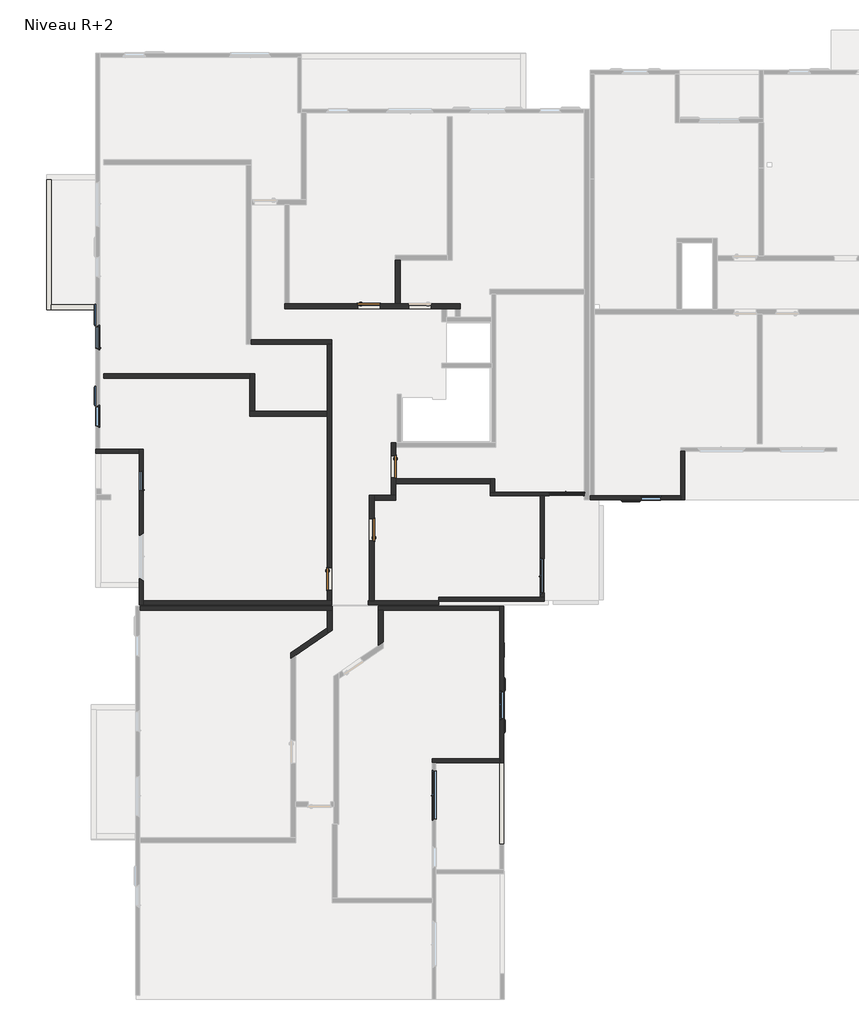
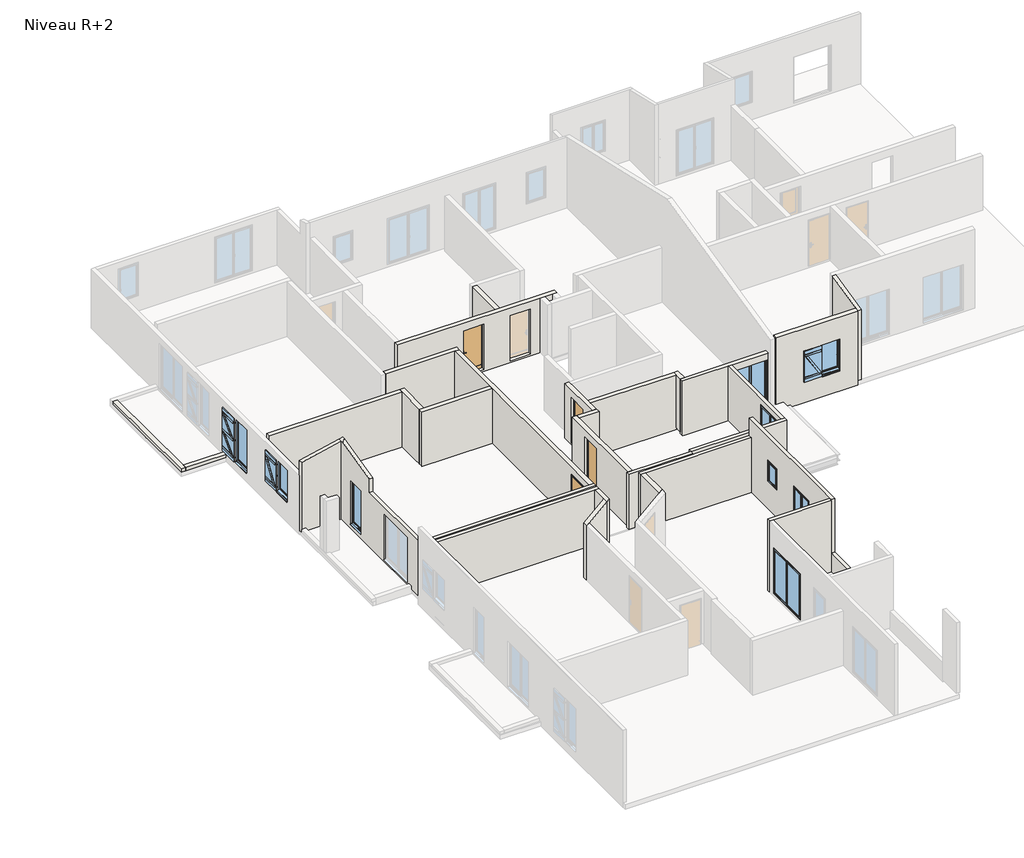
# One storey, part 2 of 7: 31 walls, 9 windows, 4 doors.
"""IFC4 building model written with IfcOpenShell, lengths in millimetres."""

from ifc_helpers import new_model, si_unit, frame, origin, place, context, project, spatial, polyline, outline, extrude, faceted_brep, transform, mapped, element, save
from components import door_6208809c, door_d4e09bec, window_6b6e24a2, window_e9bb7084, window_0_80m_x_2_05m_30132c93, window_0_90m_x_2_05m_de598733, window_1_vantail_droit_98c18ad5, window_1_40m_x_2_15m_17989232, window_2_00m_x_2_15m_5decbdad

model = new_model("IFC4")

# Units and contexts
model_context = context("Model", 3, world=origin())
ifc_project = project(units=[si_unit("LENGTHUNIT", "METRE", prefix="MILLI")], contexts=[model_context])

# Site, building, storey
site = spatial("IfcSite", under=ifc_project)
building = spatial("IfcBuilding", under=site)
storey = spatial("IfcBuildingStorey", under=building, Name="Niveau R+2", Elevation=6120.0)

# Doors
placement = place(None, origin())
door_shape = door_6208809c(model_context)
element("IfcDoor", 1, ObjectType="Entrée (avec angle d'ouverture) : PP Lisse (0.90 m x 2.15 m)", at=placement, inside=storey, context=model_context, shape_type="MappedRepresentation", body=[
    mapped(door_shape, transform((13145.0967812, 11175.465256, 6120.0), x_axis=(0.0, -1.0, 0.0), y_axis=(1.0, 0.0, 0.0), z_axis=(0.0, 0.0, 1.0))),
])
element("IfcDoor", 2, ObjectType="Entrée (avec angle d'ouverture) : PP Lisse (0.90 m x 2.15 m)", at=placement, inside=storey, context=model_context, shape_type="MappedRepresentation", body=[
    mapped(door_shape, transform((14889.7714977, 13219.661769, 6120.0), x_axis=(0.0, 1.0, 0.0), y_axis=(-1.0, 0.0, 0.0), z_axis=(0.0, 0.0, 1.0))),
])
door_2_shape = door_d4e09bec(model_context)
element("IfcDoor", 3, ObjectType="Entrée (avec angle d'ouverture) : PP Lisse (0.90 m x 2.15 m)", at=placement, inside=storey, context=model_context, shape_type="MappedRepresentation", body=[
    mapped(door_2_shape, transform((14775.0745996, 22408.2793913, 6120.0), x_axis=(1.0, 0.0, 0.0), y_axis=(0.0, 1.0, 0.0), z_axis=(0.0, 0.0, 1.0))),
])
element("IfcDoor", 4, ObjectType="Entrée (avec angle d'ouverture) : PP Lisse (0.90 m x 2.15 m)", at=placement, inside=storey, context=model_context, shape_type="MappedRepresentation", body=[
    mapped(door_2_shape, transform((15775.9659642, 15787.9594141, 6120.0), x_axis=(0.0, -1.0, 0.0), y_axis=(1.0, 0.0, 0.0), z_axis=(0.0, 0.0, 1.0))),
])

# Walls
element("IfcWall", 5, ObjectType="Ext. Voile BA 16 + 2 + 2", at=placement, inside=storey, context=model_context, shape_type="Brep", body=[
    faceted_brep([(20315.920738, 265.0198488, 6030.0), (20315.920738, 3635.465256, 6030.0), (20315.920738, 3635.465256, 6930.0), (20315.920738, 265.0198488, 6930.0), (20315.920738, 265.0198488, 6120.0), (20155.920738, 265.0198488, 6030.0), (20155.920738, 265.0198488, 6120.0), (20155.920738, 265.0198488, 6930.0), (20155.920738, 3635.465256, 6930.0), (20155.920738, 3635.465256, 6030.0)], [[[0, 1, 2, 3, 4]], [[5, 6, 7, 8, 9]], [[1, 0, 5, 9]], [[2, 1, 9, 8]], [[3, 2, 8, 7]], [[0, 4, 3, 7, 6, 5]]]),
])
element("IfcWall", 6, ObjectType="Ext. Voile BA 16 + Isolant 120", at=placement, inside=storey, context=model_context, shape_type="Brep", body=[
    faceted_brep([(27586.9796965, 16431.4013077, 6030.0), (27586.9796965, 14437.8380864, 6030.0), (27586.9796965, 14437.8380864, 9366.3623631), (27586.9796965, 14597.8380864, 9403.3012737), (27586.9796965, 16431.4013077, 9826.6126979), (27746.9796965, 16431.4013077, 6030.0), (27746.9796965, 16431.4013077, 9826.6126979), (27746.9796965, 14437.8380864, 9366.3623631), (27746.9796965, 14437.8380864, 6030.0)], [[[0, 1, 2, 3, 4]], [[5, 6, 7, 8]], [[1, 0, 5, 8]], [[0, 4, 6, 5]], [[2, 1, 8, 7]], [[4, 3, 2, 7, 6]]]),
])
element("IfcWall", 7, ObjectType="Ext. Voile BA 16 + Isolant 120", at=placement, inside=storey, context=model_context, shape_type="Brep", body=[
    faceted_brep([(27586.9796965, 14597.8380864, 5830.0), (23871.9389593, 14597.8380864, 5830.0), (23871.9389593, 14597.8380864, 6030.0), (23871.9389593, 14597.8380864, 8630.0), (23871.9389593, 14597.8380864, 9403.3012737), (27586.9796965, 14597.8380864, 9403.3012737), (25966.9796965, 14597.8380864, 6855.0), (26766.9796965, 14597.8380864, 6855.0), (26816.9796965, 14597.8380864, 6855.0), (26816.9796965, 14597.8380864, 8355.0), (25916.9796965, 14597.8380864, 8355.0), (25916.9796965, 14597.8380864, 6855.0), (23871.9389593, 14437.8380864, 5830.0), (27586.9796965, 14437.8380864, 5830.0), (27586.9796965, 14437.8380864, 6030.0), (27586.9796965, 14437.8380864, 9366.3623631), (23872.0202028, 14437.8380864, 9366.3623631), (26766.9796965, 14437.8380864, 8305.0), (26766.9796965, 14437.8380864, 6775.0), (25966.9796965, 14437.8380864, 6775.0), (25966.9796965, 14437.8380864, 8305.0), (26766.9796965, 14517.8380864, 6855.0), (26766.9796965, 14517.8380864, 6775.0), (26766.9796965, 14497.8380864, 8305.0), (26766.9796965, 14497.8380864, 6855.0), (25966.9796965, 14517.8380864, 6775.0), (25966.9796965, 14517.8380864, 6855.0), (25966.9796965, 14497.8380864, 6855.0), (25966.9796965, 14497.8380864, 8305.0), (26776.9796965, 14497.8380864, 6855.0), (26776.9796965, 14547.8380864, 6855.0), (26816.9796965, 14547.8380864, 6855.0), (25916.9796965, 14547.8380864, 6855.0), (25956.9796965, 14547.8380864, 6855.0), (25956.9796965, 14497.8380864, 6855.0), (26816.9796965, 14547.8380864, 8355.0), (25916.9796965, 14547.8380864, 8355.0), (26776.9796965, 14547.8380864, 8315.0), (25956.9796965, 14547.8380864, 8315.0), (26776.9796965, 14497.8380864, 8315.0), (25956.9796965, 14497.8380864, 8315.0)], [[[0, 1, 2, 3, 4, 5], [6, 7, 8, 9, 10, 11]], [[12, 13, 14, 15, 16], [17, 18, 19, 20]], [[1, 0, 13, 12]], [[0, 5, 15, 14, 13]], [[21, 22, 18, 17, 23, 24]], [[25, 26, 27, 28, 20, 19]], [[21, 24, 29, 30, 31, 8, 7, 6, 11, 32, 33, 34, 27, 26]], [[28, 23, 17, 20]], [[22, 25, 19, 18]], [[22, 21, 26, 25]], [[8, 31, 35, 9]], [[33, 32, 36, 35, 31, 30, 37, 38]], [[30, 29, 39, 37]], [[24, 23, 28, 27, 34, 40, 39, 29]], [[9, 35, 36, 10]], [[38, 37, 39, 40]], [[32, 11, 10, 36]], [[34, 33, 38, 40]], [[1, 12, 16, 4, 3, 2]], [[5, 4, 16, 15]]]),
])
element("IfcWall", 8, ObjectType="Ext. Voile BA 16 + Isolant 120", at=placement, inside=storey, context=model_context, shape_type="Brep", body=[
    faceted_brep([(5489.893812, 10125.465256, 6030.0), (5489.893812, 10285.465256, 6030.0), (5489.893812, 16515.4652425, 6030.0), (5489.893812, 16515.4652425, 9817.2451624), (5489.893812, 16393.8246869, 9817.2451624), (5489.893812, 14140.8367198, 9297.1019058), (5489.893812, 14140.8367198, 8650.0), (5489.893812, 10285.465256, 8650.0), (5489.893812, 10125.465256, 8650.0), (5489.893812, 15665.4652425, 6255.0), (5489.893812, 14765.4652425, 6255.0), (5489.893812, 14765.4652425, 8355.0), (5489.893812, 15665.4652425, 8355.0), (5489.893812, 13035.465256, 6155.0), (5489.893812, 11135.465256, 6155.0), (5489.893812, 11135.465256, 8355.0), (5489.893812, 13035.465256, 8355.0), (5329.893812, 10125.465256, 6030.0), (5329.893812, 10125.465256, 8650.0), (5329.893812, 14140.8367198, 8650.0), (5329.893812, 14140.8367198, 9297.1019058), (5329.893812, 16233.8246869, 9780.3062518), (5329.893812, 16355.4652425, 9780.3062518), (5329.893812, 16515.4652425, 9780.3062518), (5329.893812, 16515.4652425, 6030.0), (5329.893812, 16355.4652425, 6030.0), (5329.893812, 11035.4652425, 6030.0), (5329.893812, 10855.4652425, 6030.0), (5329.893812, 14815.4652425, 8305.0), (5329.893812, 14815.4652425, 6246.5916612), (5329.893812, 15615.4652425, 6246.5916612), (5329.893812, 15615.4652425, 8305.0), (5329.893812, 11185.465256, 8305.0), (5329.893812, 11185.465256, 6146.5916612), (5329.893812, 12985.465256, 6146.5916612), (5329.893812, 12985.465256, 8305.0), (5409.893812, 14815.4652425, 6255.0), (5389.893812, 14815.4652425, 8305.0), (5389.893812, 14815.4652425, 6255.0), (5409.893812, 15615.4652425, 6255.0), (5389.893812, 15615.4652425, 6255.0), (5389.893812, 15615.4652425, 8305.0), (5389.893812, 14805.4652425, 6255.0), (5439.893812, 14805.4652425, 6255.0), (5439.893812, 14765.4652425, 6255.0), (5439.893812, 15665.4652425, 6255.0), (5439.893812, 15625.4652425, 6255.0), (5389.893812, 15625.4652425, 6255.0), (5439.893812, 14765.4652425, 8355.0), (5439.893812, 14805.4652425, 8315.0), (5439.893812, 15625.4652425, 8315.0), (5439.893812, 15665.4652425, 8355.0), (5389.893812, 14805.4652425, 8315.0), (5389.893812, 15625.4652425, 8315.0), (5409.893812, 11185.465256, 6155.0), (5389.893812, 11185.465256, 8305.0), (5389.893812, 11185.465256, 6155.0), (5409.893812, 12985.465256, 6155.0), (5389.893812, 12985.465256, 6155.0), (5389.893812, 12985.465256, 8305.0), (5389.893812, 11175.465256, 6155.0), (5439.893812, 11175.465256, 6155.0), (5439.893812, 11135.465256, 6155.0), (5439.893812, 13035.465256, 6155.0), (5439.893812, 12995.465256, 6155.0), (5389.893812, 12995.465256, 6155.0), (5439.893812, 11135.465256, 8355.0), (5439.893812, 11175.465256, 8315.0), (5439.893812, 12995.465256, 8315.0), (5439.893812, 13035.465256, 8355.0), (5389.893812, 11175.465256, 8315.0), (5389.893812, 12995.465256, 8315.0)], [[[0, 1, 2, 3, 4, 5, 6, 7, 8], [9, 10, 11, 12], [13, 14, 15, 16]], [[17, 18, 19, 20, 21, 22, 23, 24, 25, 26, 27], [28, 29, 30, 31], [32, 33, 34, 35]], [[2, 1, 0, 17, 27, 26, 25, 24]], [[3, 2, 24, 23]], [[0, 8, 18, 17]], [[36, 29, 28, 37, 38]], [[30, 39, 40, 41, 31]], [[36, 39, 30, 29]], [[28, 31, 41, 37]], [[39, 36, 38, 42, 43, 44, 10, 9, 45, 46, 47, 40]], [[10, 44, 48, 11]], [[44, 43, 49, 50, 46, 45, 51, 48]], [[43, 42, 52, 49]], [[42, 38, 37, 41, 40, 47, 53, 52]], [[11, 48, 51, 12]], [[50, 49, 52, 53]], [[51, 45, 9, 12]], [[46, 50, 53, 47]], [[54, 33, 32, 55, 56]], [[34, 57, 58, 59, 35]], [[54, 57, 34, 33]], [[32, 35, 59, 55]], [[57, 54, 56, 60, 61, 62, 14, 13, 63, 64, 65, 58]], [[14, 62, 66, 15]], [[62, 61, 67, 68, 64, 63, 69, 66]], [[61, 60, 70, 67]], [[60, 56, 55, 59, 58, 65, 71, 70]], [[15, 66, 69, 16]], [[68, 67, 70, 71]], [[69, 63, 13, 16]], [[64, 68, 71, 65]], [[8, 7, 6, 19, 18]], [[19, 6, 5, 20]], [[5, 4, 21, 20]], [[4, 3, 23, 22, 21]]]),
])
element("IfcWall", 9, ObjectType="Ext. Voile BA 16 + Isolant 120", at=placement, inside=storey, context=model_context, shape_type="Brep", body=[
    faceted_brep([(5329.893812, 16515.4652425, 6030.0), (3536.9058449, 16515.4652425, 6030.0), (3536.9058449, 16515.4652425, 8650.0), (3536.9058449, 16515.4652425, 9366.3623631), (5329.893812, 16515.4652425, 9780.3062518), (5329.893812, 16355.4652425, 6030.0), (5329.893812, 16355.4652425, 9780.3062518), (3536.9058449, 16355.4652425, 9366.3623631), (3536.9058449, 16355.4652425, 6180.0), (3536.9058449, 16355.4652425, 6030.0), (3736.9058449, 16355.4652425, 6030.0)], [[[0, 1, 2, 3, 4]], [[5, 6, 7, 8, 9, 10]], [[1, 0, 5, 10, 9]], [[0, 4, 6, 5]], [[1, 9, 8, 7, 3, 2]], [[4, 3, 7, 6]]]),
])
element("IfcWall", 10, ObjectType="Ext. Voile BA 16 + Isolant 120", at=placement, inside=storey, context=model_context, shape_type="Brep", body=[
    faceted_brep([(20155.920738, 10065.4658562, 9490.0), (20155.920738, 10065.4658562, 8850.0), (20155.920738, 10065.4658562, 8650.0), (20155.920738, 10065.4658562, 6030.0), (20155.920738, 10065.4658562, 5830.0), (20155.920738, 3635.465256, 5830.0), (20155.920738, 3635.465256, 6030.0), (20155.920738, 3635.465256, 9450.0), (20155.920738, 3635.465256, 9490.0), (20155.920738, 5395.465256, 6855.0), (20155.920738, 6595.465256, 6855.0), (20155.920738, 6595.465256, 8355.0), (20155.920738, 5395.465256, 8355.0), (20155.920738, 7915.4658562, 7355.0), (20155.920738, 8615.4658562, 7355.0), (20155.920738, 8615.4658562, 8355.0), (20155.920738, 7915.4658562, 8355.0), (20315.920738, 10065.4658562, 5830.0), (20315.920738, 10065.4658562, 9490.0), (20315.920738, 3635.465256, 9490.0), (20315.920738, 3635.465256, 5830.0), (20315.920738, 6545.465256, 8305.0), (20315.920738, 6545.465256, 6775.0), (20315.920738, 5445.465256, 6775.0), (20315.920738, 5445.465256, 8305.0), (20315.920738, 8565.4658562, 8305.0), (20315.920738, 8565.4658562, 7331.5916612), (20315.920738, 7965.4658562, 7331.5916612), (20315.920738, 7965.4658562, 8305.0), (20235.920738, 6545.465256, 6855.0), (20235.920738, 6545.465256, 6775.0), (20255.920738, 6545.465256, 8305.0), (20255.920738, 6545.465256, 6855.0), (20235.920738, 5445.465256, 6775.0), (20235.920738, 5445.465256, 6855.0), (20255.920738, 5445.465256, 6855.0), (20255.920738, 5445.465256, 8305.0), (20255.920738, 6555.465256, 6855.0), (20205.920738, 6555.465256, 6855.0), (20205.920738, 6595.465256, 6855.0), (20205.920738, 5395.465256, 6855.0), (20205.920738, 5435.465256, 6855.0), (20255.920738, 5435.465256, 6855.0), (20205.920738, 6595.465256, 8355.0), (20205.920738, 6555.465256, 8315.0), (20205.920738, 5435.465256, 8315.0), (20205.920738, 5395.465256, 8355.0), (20255.920738, 6555.465256, 8315.0), (20255.920738, 5435.465256, 8315.0), (20235.920738, 8565.4658562, 7355.0), (20235.920738, 8565.4658562, 7340.0), (20255.920738, 8565.4658562, 8305.0), (20255.920738, 8565.4658562, 7355.0), (20235.920738, 7965.4658562, 7340.0), (20235.920738, 7965.4658562, 7355.0), (20255.920738, 7965.4658562, 7355.0), (20255.920738, 7965.4658562, 8305.0), (20255.920738, 8575.4658562, 7355.0), (20205.920738, 8575.4658562, 7355.0), (20205.920738, 8615.4658562, 7355.0), (20205.920738, 7915.4658562, 7355.0), (20205.920738, 7955.4658562, 7355.0), (20255.920738, 7955.4658562, 7355.0), (20205.920738, 8615.4658562, 8355.0), (20205.920738, 8575.4658562, 8315.0), (20205.920738, 7955.4658562, 8315.0), (20205.920738, 7915.4658562, 8355.0), (20255.920738, 8575.4658562, 8315.0), (20255.920738, 7955.4658562, 8315.0)], [[[0, 1, 2, 3, 4, 5, 6, 7, 8], [9, 10, 11, 12], [13, 14, 15, 16]], [[17, 18, 19, 20], [21, 22, 23, 24], [25, 26, 27, 28]], [[5, 4, 17, 20]], [[0, 8, 19, 18]], [[8, 7, 6, 5, 20, 19]], [[29, 30, 22, 21, 31, 32]], [[33, 34, 35, 36, 24, 23]], [[30, 33, 23, 22]], [[30, 29, 34, 33]], [[21, 24, 36, 31]], [[34, 29, 32, 37, 38, 39, 10, 9, 40, 41, 42, 35]], [[10, 39, 43, 11]], [[39, 38, 44, 45, 41, 40, 46, 43]], [[38, 37, 47, 44]], [[37, 32, 31, 36, 35, 42, 48, 47]], [[11, 43, 46, 12]], [[45, 44, 47, 48]], [[46, 40, 9, 12]], [[41, 45, 48, 42]], [[49, 50, 26, 25, 51, 52]], [[53, 54, 55, 56, 28, 27]], [[50, 53, 27, 26]], [[50, 49, 54, 53]], [[25, 28, 56, 51]], [[54, 49, 52, 57, 58, 59, 14, 13, 60, 61, 62, 55]], [[14, 59, 63, 15]], [[59, 58, 64, 65, 61, 60, 66, 63]], [[58, 57, 67, 64]], [[57, 52, 51, 56, 55, 62, 68, 67]], [[15, 63, 66, 16]], [[65, 64, 67, 68]], [[66, 60, 13, 16]], [[61, 65, 68, 62]], [[0, 18, 17, 4, 3, 2, 1]]]),
])
element("IfcWall", 11, ObjectType="Ext. Voile BA 16 + Isolant 120", at=placement, inside=storey, context=model_context, shape_type="Brep", body=[
    faceted_brep([(20155.920738, 3795.465256, 6030.0), (17362.934101, 3795.465256, 6030.0), (17362.934101, 3795.465256, 9450.0), (20155.920738, 3795.465256, 9450.0), (20155.920738, 3635.465256, 6030.0), (20155.920738, 3635.465256, 9450.0), (17522.934101, 3635.465256, 9450.0), (17362.934101, 3635.465256, 9450.0), (17362.934101, 3635.465256, 6030.0), (17522.934101, 3635.465256, 6030.0)], [[[0, 1, 2, 3]], [[4, 5, 6, 7, 8, 9]], [[1, 0, 4, 9, 8]], [[3, 2, 7, 6, 5]], [[0, 3, 5, 4]], [[2, 1, 8, 7]]]),
])
element("IfcWall", 12, ObjectType="Ext. Voile BA 16 + Isolant 120", at=placement, inside=storey, context=model_context, shape_type="Brep", body=[
    faceted_brep([(23619.3795366, 14760.8367198, 6030.0), (19749.8723761, 14760.8367198, 6030.0), (19749.8723761, 14760.8367198, 6120.0), (19749.8723761, 14760.8367198, 8650.0), (19949.8723761, 14760.8367198, 8650.0), (23619.3795366, 14760.8367198, 8650.0), (23619.3795366, 14760.8367198, 8355.0), (22135.8013446, 14760.8367198, 8355.0), (22135.8013446, 14760.8367198, 6155.0), (22185.8013446, 14760.8367198, 6155.0), (23585.8013446, 14760.8367198, 6155.0), (23619.3795366, 14760.8367198, 6155.0), (19749.8723761, 14600.8367198, 6030.0), (21812.2231526, 14600.8367198, 6030.0), (21972.2231526, 14600.8367198, 6030.0), (23619.3795366, 14600.8367198, 6030.0), (23619.3795366, 14600.8367198, 8650.0), (21972.2231526, 14600.8367198, 8650.0), (21812.2231526, 14600.8367198, 8650.0), (19749.8723761, 14600.8367198, 8650.0), (23585.8013446, 14600.8367198, 8305.0), (23585.8013446, 14600.8367198, 6146.5916612), (22185.8013446, 14600.8367198, 6146.5916612), (22185.8013446, 14600.8367198, 8305.0), (23619.3795366, 14710.8367198, 6155.0), (23619.3795366, 14710.8367198, 8355.0), (23585.8013446, 14660.8367198, 8305.0), (23585.8013446, 14660.8367198, 6155.0), (23585.8013446, 14680.8367198, 6155.0), (22185.8013446, 14680.8367198, 6155.0), (22185.8013446, 14660.8367198, 6155.0), (22185.8013446, 14660.8367198, 8305.0), (23595.8013446, 14660.8367198, 6155.0), (23595.8013446, 14710.8367198, 6155.0), (22135.8013446, 14710.8367198, 6155.0), (22175.8013446, 14710.8367198, 6155.0), (22175.8013446, 14660.8367198, 6155.0), (22135.8013446, 14710.8367198, 8355.0), (23595.8013446, 14710.8367198, 8315.0), (22175.8013446, 14710.8367198, 8315.0), (23595.8013446, 14660.8367198, 8315.0), (22175.8013446, 14660.8367198, 8315.0)], [[[0, 1, 2, 3, 4, 5, 6, 7, 8, 9, 10, 11]], [[12, 13, 14, 15, 16, 17, 18, 19], [20, 21, 22, 23]], [[1, 0, 15, 14, 13, 12]], [[5, 4, 3, 19, 18, 17, 16]], [[5, 16, 15, 0, 11, 24, 25, 6]], [[3, 2, 1, 12, 19]], [[26, 27, 28, 21, 20]], [[29, 30, 31, 23, 22]], [[28, 27, 32, 33, 24, 11, 10, 9, 8, 34, 35, 36, 30, 29]], [[31, 26, 20, 23]], [[28, 29, 22, 21]], [[35, 34, 37, 25, 24, 33, 38, 39]], [[33, 32, 40, 38]], [[27, 26, 31, 30, 36, 41, 40, 32]], [[37, 7, 6, 25]], [[39, 38, 40, 41]], [[34, 8, 7, 37]], [[36, 35, 39, 41]]]),
])
element("IfcWall", 13, ObjectType="Ext. Voile BA 16 + Isolant 120", at=placement, inside=storey, context=model_context, shape_type="Brep", body=[
    faceted_brep([(17640.104333, 10428.39158, 8650.0), (21812.2231526, 10428.39158, 8650.0), (21972.2231526, 10428.39158, 8650.0), (21972.2231526, 10428.39158, 6030.0), (21812.2231526, 10428.39158, 6030.0), (17640.104333, 10428.39158, 6030.0), (21972.2231526, 10268.39158, 8650.0), (17640.104333, 10268.39158, 8650.0), (17640.104333, 10268.39158, 6030.0), (21972.2231526, 10268.39158, 6030.0)], [[[0, 1, 2, 3, 4, 5]], [[6, 7, 8, 9]], [[7, 0, 5, 8]], [[2, 1, 0, 7, 6]], [[2, 6, 9, 3]], [[5, 4, 3, 9, 8]]]),
])
element("IfcWall", 14, ObjectType="Ext. Voile BA 16 + Isolant 120", at=placement, inside=storey, context=model_context, shape_type="Brep", body=[
    faceted_brep([(21812.2231526, 14600.8367198, 6030.0), (21812.2231526, 10428.39158, 6030.0), (21812.2231526, 10428.39158, 8650.0), (21812.2231526, 14600.8367198, 8650.0), (21812.2231526, 10558.39158, 6155.0), (21812.2231526, 12058.39158, 6155.0), (21812.2231526, 12058.39158, 8355.0), (21812.2231526, 10558.39158, 8355.0), (21972.2231526, 14600.8367198, 6030.0), (21972.2231526, 14600.8367198, 8650.0), (21972.2231526, 10428.39158, 8650.0), (21972.2231526, 10428.39158, 6030.0), (21972.2231526, 12008.39158, 8305.0), (21972.2231526, 12008.39158, 6146.5916612), (21972.2231526, 10608.39158, 6146.5916612), (21972.2231526, 10608.39158, 8305.0), (21892.2231526, 12008.39158, 6155.0), (21912.2231526, 12008.39158, 8305.0), (21912.2231526, 12008.39158, 6155.0), (21892.2231526, 10608.39158, 6155.0), (21912.2231526, 10608.39158, 6155.0), (21912.2231526, 10608.39158, 8305.0), (21912.2231526, 12018.39158, 6155.0), (21862.2231526, 12018.39158, 6155.0), (21862.2231526, 12058.39158, 6155.0), (21862.2231526, 10558.39158, 6155.0), (21862.2231526, 10598.39158, 6155.0), (21912.2231526, 10598.39158, 6155.0), (21862.2231526, 12058.39158, 8355.0), (21862.2231526, 12018.39158, 8315.0), (21862.2231526, 10598.39158, 8315.0), (21862.2231526, 10558.39158, 8355.0), (21912.2231526, 12018.39158, 8315.0), (21912.2231526, 10598.39158, 8315.0)], [[[0, 1, 2, 3], [4, 5, 6, 7]], [[8, 9, 10, 11], [12, 13, 14, 15]], [[1, 0, 8, 11]], [[3, 2, 10, 9]], [[2, 1, 11, 10]], [[0, 3, 9, 8]], [[16, 13, 12, 17, 18]], [[14, 19, 20, 21, 15]], [[16, 19, 14, 13]], [[12, 15, 21, 17]], [[19, 16, 18, 22, 23, 24, 5, 4, 25, 26, 27, 20]], [[5, 24, 28, 6]], [[24, 23, 29, 30, 26, 25, 31, 28]], [[23, 22, 32, 29]], [[22, 18, 17, 21, 20, 27, 33, 32]], [[6, 28, 31, 7]], [[30, 29, 32, 33]], [[31, 25, 4, 7]], [[26, 30, 33, 27]]]),
])
element("IfcWall", 15, ObjectType="Voile BA 16", at=placement, inside=storey, context=model_context, shape_type="Brep", body=[
    faceted_brep([(5344.2512184, 9895.4625547, 6030.0), (13056.279785, 9895.4625547, 6030.0), (13256.279785, 9895.4625547, 6030.0), (13256.279785, 9895.4625547, 8650.0), (13056.279785, 9895.4625547, 8650.0), (5344.2512184, 9895.4625547, 8650.0), (5344.2512184, 10055.4625547, 6030.0), (5344.2512184, 10055.4625547, 8650.0), (13256.279785, 10055.4625547, 8650.0), (13256.279785, 10055.4625547, 6030.0)], [[[0, 1, 2, 3, 4, 5]], [[6, 7, 8, 9]], [[2, 1, 0, 6, 9]], [[5, 4, 3, 8, 7]], [[3, 2, 9, 8]], [[0, 5, 7, 6]]]),
])
element("IfcWall", 16, ObjectType="Voile BA 16", at=placement, inside=storey, context=model_context, shape_type="Brep", body=[
    faceted_brep([(5489.893812, 10125.465256, 6030.0), (13245.0967812, 10125.465256, 6030.0), (13245.0967812, 10125.465256, 8650.0), (5489.893812, 10125.465256, 8650.0), (5489.893812, 10285.465256, 6030.0), (5489.893812, 10285.465256, 8650.0), (13045.0967812, 10285.465256, 8650.0), (13245.0967812, 10285.465256, 8650.0), (13245.0967812, 10285.465256, 6030.0), (13045.0967812, 10285.465256, 6030.0)], [[[0, 1, 2, 3]], [[4, 5, 6, 7, 8, 9]], [[1, 0, 4, 9, 8]], [[3, 2, 7, 6, 5]], [[0, 3, 5, 4]], [[2, 1, 8, 7]]]),
])
element("IfcWall", 17, ObjectType="Voile BA 16", at=placement, inside=storey, context=model_context, shape_type="Brep", body=[
    faceted_brep([(15152.2580905, 9905.4658562, 6030.0), (15352.2580905, 9905.4658562, 6030.0), (20155.920738, 9905.4658562, 6030.0), (20155.920738, 9905.4658562, 8650.0), (15352.2580905, 9905.4658562, 8650.0), (15152.2580905, 9905.4658562, 8650.0), (15152.2580905, 10065.4658562, 6030.0), (15152.2580905, 10065.4658562, 8650.0), (20155.920738, 10065.4658562, 8650.0), (20155.920738, 10065.4658562, 6030.0)], [[[0, 1, 2, 3, 4, 5]], [[6, 7, 8, 9]], [[2, 1, 0, 6, 9]], [[5, 4, 3, 8, 7]], [[3, 2, 9, 8]], [[0, 5, 7, 6]]]),
])
element("IfcWall", 18, ObjectType="Voile BA 16", at=placement, inside=storey, context=model_context, shape_type="SweptSolid", body=[
    extrude(outline(polyline([(17640.104333, 10125.465256), (14729.7714977, 10125.465256), (14729.7714977, 10285.465256), (17640.104333, 10285.465256), (17640.104333, 10125.465256)])), frame((0.0, 0.0, 6030.0), z_axis=(0.0, 0.0, 1.0), x_axis=(1.0, 0.0, 0.0)), (0.0, 0.0, 1.0), 2620.0),
])
element("IfcWall", 19, ObjectType="Voile BA 20", at=placement, inside=storey, context=model_context, shape_type="SweptSolid", body=[
    extrude(outline(polyline([(15851.5704733, 22508.2793913), (15851.5704733, 24303.1590231), (16051.5704733, 24303.1590231), (16051.5704733, 22508.2793913), (15851.5704733, 22508.2793913)])), frame((0.0, 0.0, 6030.0), z_axis=(0.0, 0.0, 1.0), x_axis=(1.0, 0.0, 0.0)), (0.0, 0.0, 1.0), 2620.0),
])
element("IfcWall", 20, ObjectType="Voile BA 20", at=placement, inside=storey, context=model_context, shape_type="Brep", body=[
    faceted_brep([(19949.8723761, 14760.8367198, 6120.0), (19949.8723761, 15297.9594141, 6120.0), (19949.8723761, 15297.9594141, 8650.0), (19949.8723761, 14760.8367198, 8650.0), (19749.8723761, 14760.8367198, 6120.0), (19749.8723761, 14760.8367198, 8650.0), (19749.8723761, 15097.9594141, 8650.0), (19749.8723761, 15297.9594141, 8650.0), (19749.8723761, 15297.9594141, 6120.0)], [[[0, 1, 2, 3]], [[4, 5, 6, 7, 8]], [[1, 0, 4, 8]], [[3, 2, 7, 6, 5]], [[0, 3, 5, 4]], [[2, 1, 8, 7]]]),
])
element("IfcWall", 21, ObjectType="Voile BA 20", at=placement, inside=storey, context=model_context, shape_type="Brep", body=[
    faceted_brep([(19749.8723761, 15297.9594141, 6030.0), (15875.9659642, 15297.9594141, 6030.0), (15875.9659642, 15297.9594141, 8650.0), (19749.8723761, 15297.9594141, 8650.0), (19749.8723761, 15297.9594141, 6120.0), (19749.8723761, 15097.9594141, 6030.0), (19749.8723761, 15097.9594141, 8650.0), (15875.9659642, 15097.9594141, 8650.0), (15875.9659642, 15097.9594141, 6030.0)], [[[0, 1, 2, 3, 4]], [[5, 6, 7, 8]], [[1, 0, 5, 8]], [[3, 2, 7, 6]], [[0, 4, 3, 6, 5]], [[2, 1, 8, 7]]]),
])
element("IfcWall", 22, ObjectType="Voile BA 20", at=placement, inside=storey, context=model_context, shape_type="Brep", body=[
    faceted_brep([(13044.0967812, 18084.4405074, 6030.0), (10065.0967812, 18084.4405074, 6030.0), (9865.0967812, 18084.4405074, 6030.0), (9865.0967812, 18084.4405074, 8650.0), (10065.0967812, 18084.4405074, 8650.0), (13044.0967812, 18084.4405074, 8650.0), (13044.0967812, 17884.4405074, 6030.0), (13044.0967812, 17884.4405074, 8650.0), (9865.0967812, 17884.4405074, 8650.0), (9865.0967812, 17884.4405074, 6030.0)], [[[0, 1, 2, 3, 4, 5]], [[6, 7, 8, 9]], [[2, 1, 0, 6, 9]], [[5, 4, 3, 8, 7]], [[0, 5, 7, 6]], [[3, 2, 9, 8]]]),
])
element("IfcWall", 23, ObjectType="Voile BA 20", at=placement, inside=storey, context=model_context, shape_type="Brep", body=[
    faceted_brep([(10065.0967812, 18084.4405074, 6030.0), (10065.0967812, 19631.3462278, 6030.0), (10065.0967812, 19631.3462278, 8650.0), (10065.0967812, 18084.4405074, 8650.0), (9865.0967812, 18084.4405074, 6030.0), (9865.0967812, 18084.4405074, 8650.0), (9865.0967812, 19431.3462278, 8650.0), (9865.0967812, 19631.3462278, 8650.0), (9865.0967812, 19631.3462278, 6030.0), (9865.0967812, 19431.3462278, 6030.0)], [[[0, 1, 2, 3]], [[4, 5, 6, 7, 8, 9]], [[1, 0, 4, 9, 8]], [[3, 2, 7, 6, 5]], [[0, 3, 5, 4]], [[2, 1, 8, 7]]]),
])
element("IfcWall", 24, ObjectType="Voile BA 20", at=placement, inside=storey, context=model_context, shape_type="SweptSolid", body=[
    extrude(outline(polyline([(3857.9058449, 19631.3462278), (9865.0967812, 19631.3462278), (9865.0967812, 19431.3462278), (3857.9058449, 19431.3462278), (3857.9058449, 19631.3462278)])), frame((0.0, 0.0, 6030.0), z_axis=(0.0, 0.0, 1.0), x_axis=(1.0, 0.0, 0.0)), (0.0, 0.0, 1.0), 2620.0),
])
element("IfcWall", 25, ObjectType="Voile BA 20", at=placement, inside=storey, context=model_context, shape_type="Brep", body=[
    faceted_brep([(1507.5836831, 27613.7289873, 6030.0), (1507.5836831, 22262.3094257, 6030.0), (1507.5836831, 22262.3094257, 6180.0), (1507.5836831, 27613.7289873, 6180.0), (1707.5836831, 27613.7289873, 6030.0), (1707.5836831, 27613.7289873, 6180.0), (1707.5836831, 22462.3094257, 6180.0), (1707.5836831, 22262.3094257, 6180.0), (1707.5836831, 22262.3094257, 6030.0), (1707.5836831, 22462.3094257, 6030.0)], [[[0, 1, 2, 3]], [[4, 5, 6, 7, 8, 9]], [[1, 0, 4, 9, 8]], [[3, 2, 7, 6, 5]], [[0, 3, 5, 4]], [[2, 1, 8, 7]]]),
])
element("IfcWall", 26, ObjectType="Voile BA 20", at=placement, inside=storey, context=model_context, shape_type="SweptSolid", body=[
    extrude(outline(polyline([(3526.9065839, 22262.3094257), (1707.5836831, 22262.3094257), (1707.5836831, 22462.3094257), (3526.9065839, 22462.3094257), (3526.9065839, 22262.3094257)])), frame((0.0, 0.0, 6030.0), z_axis=(0.0, 0.0, 1.0), x_axis=(1.0, 0.0, 0.0)), (0.0, 0.0, 1.0), 150.0),
])
element("IfcWall", 27, ObjectType="Voile BA 20 + Isolant 60", at=placement, inside=storey, context=model_context, shape_type="SweptSolid", body=[
    extrude(outline(polyline([(15352.2580905, 9905.4658562), (15352.2580905, 8576.7939137), (15152.2580905, 8439.9939492), (15152.2580905, 9905.4658562), (15352.2580905, 9905.4658562)])), frame((0.0, 0.0, 6030.0), z_axis=(0.0, 0.0, 1.0), x_axis=(1.0, 0.0, 0.0)), (0.0, 0.0, 1.0), 2620.0),
])
element("IfcWall", 28, ObjectType="Voile BA 20 + Isolant 60", at=placement, inside=storey, context=model_context, shape_type="Brep", body=[
    faceted_brep([(13056.279785, 9895.4625547, 6030.0), (13056.279785, 9174.0267173, 6030.0), (13056.279785, 8931.716523, 6030.0), (13056.279785, 8931.716523, 8650.0), (13056.279785, 9174.0267173, 8650.0), (13056.279785, 9895.4625547, 8650.0), (13256.279785, 9895.4625547, 6030.0), (13256.279785, 9895.4625547, 8650.0), (13256.279785, 9068.5164875, 8650.0), (13256.279785, 9068.5164875, 6030.0)], [[[0, 1, 2, 3, 4, 5]], [[6, 7, 8, 9]], [[2, 1, 0, 6, 9]], [[5, 4, 3, 8, 7]], [[0, 5, 7, 6]], [[3, 2, 9, 8]]]),
])
element("IfcWall", 29, ObjectType="Voile BA 20 + Isolant 60", at=placement, inside=storey, context=model_context, shape_type="Brep", body=[
    faceted_brep([(13056.279785, 9174.0267173, 6030.0), (11554.0730744, 8146.517594, 6030.0), (11554.0730744, 8146.517594, 8650.0), (13056.279785, 9174.0267173, 8650.0), (13056.279785, 8931.716523, 6030.0), (13056.279785, 8931.716523, 8650.0), (11754.0730744, 8041.0073641, 8650.0), (11554.0730744, 7904.2073996, 8650.0), (11554.0730744, 7904.2073996, 6030.0), (11754.0730744, 8041.0073641, 6030.0)], [[[0, 1, 2, 3]], [[4, 5, 6, 7, 8, 9]], [[1, 0, 4, 9, 8]], [[3, 2, 7, 6, 5]], [[0, 3, 5, 4]], [[2, 1, 8, 7]]]),
])
element("IfcWall", 30, ObjectType="Voile BA 20 + Isolant 60", at=placement, inside=storey, context=model_context, shape_type="Brep", body=[
    faceted_brep([(14989.7714977, 10285.465256, 6030.0), (14989.7714977, 14425.39158, 6030.0), (14989.7714977, 14625.39158, 6030.0), (14989.7714977, 14625.39158, 8650.0), (14989.7714977, 14425.39158, 8650.0), (14989.7714977, 10285.465256, 8650.0), (14989.7714977, 12749.661769, 6120.0), (14989.7714977, 12719.661769, 6120.0), (14989.7714977, 12719.661769, 8310.0), (14989.7714977, 13699.661769, 8310.0), (14989.7714977, 13699.661769, 6120.0), (14989.7714977, 13669.661769, 6120.0), (14789.7714977, 14625.39158, 6030.0), (14789.7714977, 10285.465256, 6030.0), (14789.7714977, 10285.465256, 8650.0), (14789.7714977, 14625.39158, 8650.0), (14789.7714977, 13669.661769, 8280.0), (14789.7714977, 12749.661769, 8280.0), (14789.7714977, 12749.661769, 6120.0), (14789.7714977, 13669.661769, 6120.0), (14889.7714977, 13669.661769, 8280.0), (14889.7714977, 12749.661769, 8280.0), (14889.7714977, 12749.661769, 6120.0), (14889.7714977, 12734.661769, 6120.0), (14932.7714977, 12734.661769, 6120.0), (14932.7714977, 12719.661769, 6120.0), (14932.7714977, 13699.661769, 6120.0), (14932.7714977, 13684.661769, 6120.0), (14889.7714977, 13684.661769, 6120.0), (14889.7714977, 13669.661769, 6120.0), (14932.7714977, 12734.661769, 8295.0), (14932.7714977, 13684.661769, 8295.0), (14932.7714977, 13699.661769, 8310.0), (14932.7714977, 12719.661769, 8310.0), (14889.7714977, 12734.661769, 8295.0), (14889.7714977, 13684.661769, 8295.0)], [[[0, 1, 2, 3, 4, 5], [6, 7, 8, 9, 10, 11]], [[12, 13, 14, 15], [16, 17, 18, 19]], [[2, 1, 0, 13, 12]], [[5, 4, 3, 15, 14]], [[0, 5, 14, 13]], [[3, 2, 12, 15]], [[20, 21, 17, 16]], [[22, 23, 24, 25, 7, 6, 11, 10, 26, 27, 28, 29, 19, 18]], [[29, 20, 16, 19]], [[21, 22, 18, 17]], [[25, 24, 30, 31, 27, 26, 32, 33]], [[7, 25, 33, 8]], [[33, 32, 9, 8]], [[26, 10, 9, 32]], [[24, 23, 34, 30]], [[21, 20, 29, 28, 35, 34, 23, 22]], [[31, 30, 34, 35]], [[28, 27, 31, 35]]]),
])
element("IfcWall", 31, ObjectType="Voile BA 20 + Isolant 60", at=placement, inside=storey, context=model_context, shape_type="Brep", body=[
    faceted_brep([(14989.7714977, 14425.39158, 6030.0), (15875.9659642, 14425.39158, 6030.0), (15875.9659642, 14425.39158, 8650.0), (14989.7714977, 14425.39158, 8650.0), (14989.7714977, 14625.39158, 6030.0), (14989.7714977, 14625.39158, 8650.0), (15675.9659642, 14625.39158, 8650.0), (15875.9659642, 14625.39158, 8650.0), (15875.9659642, 14625.39158, 6030.0), (15675.9659642, 14625.39158, 6030.0)], [[[0, 1, 2, 3]], [[4, 5, 6, 7, 8, 9]], [[1, 0, 4, 9, 8]], [[3, 2, 7, 6, 5]], [[0, 3, 5, 4]], [[2, 1, 8, 7]]]),
])
element("IfcWall", 32, ObjectType="Voile BA 20 + Isolant 60", at=placement, inside=storey, context=model_context, shape_type="Brep", body=[
    faceted_brep([(15875.9659642, 14625.39158, 6030.0), (15875.9659642, 15097.9594141, 6030.0), (15875.9659642, 15297.9594141, 6030.0), (15875.9659642, 16600.9152593, 6030.0), (15875.9659642, 16780.9152593, 6030.0), (15875.9659642, 16780.9152593, 8650.0), (15875.9659642, 16600.9152593, 8650.0), (15875.9659642, 15297.9594141, 8650.0), (15875.9659642, 15097.9594141, 8650.0), (15875.9659642, 14625.39158, 8650.0), (15875.9659642, 15337.9594141, 6120.0), (15875.9659642, 15307.9594141, 6120.0), (15875.9659642, 15307.9594141, 8310.0), (15875.9659642, 16287.9594141, 8310.0), (15875.9659642, 16287.9594141, 6120.0), (15875.9659642, 16257.9594141, 6120.0), (15675.9659642, 16780.9152593, 6030.0), (15675.9659642, 14625.39158, 6030.0), (15675.9659642, 14625.39158, 8650.0), (15675.9659642, 16780.9152593, 8650.0), (15675.9659642, 16257.9594141, 8280.0), (15675.9659642, 15337.9594141, 8280.0), (15675.9659642, 15337.9594141, 6120.0), (15675.9659642, 16257.9594141, 6120.0), (15775.9659642, 16257.9594141, 8280.0), (15775.9659642, 15337.9594141, 8280.0), (15775.9659642, 15337.9594141, 6120.0), (15775.9659642, 15322.9594141, 6120.0), (15818.9659642, 15322.9594141, 6120.0), (15818.9659642, 15307.9594141, 6120.0), (15818.9659642, 16287.9594141, 6120.0), (15818.9659642, 16272.9594141, 6120.0), (15775.9659642, 16272.9594141, 6120.0), (15775.9659642, 16257.9594141, 6120.0), (15818.9659642, 15322.9594141, 8295.0), (15818.9659642, 16272.9594141, 8295.0), (15818.9659642, 16287.9594141, 8310.0), (15818.9659642, 15307.9594141, 8310.0), (15775.9659642, 16272.9594141, 8295.0), (15775.9659642, 15322.9594141, 8295.0)], [[[0, 1, 2, 3, 4, 5, 6, 7, 8, 9], [10, 11, 12, 13, 14, 15]], [[16, 17, 18, 19], [20, 21, 22, 23]], [[4, 3, 2, 1, 0, 17, 16]], [[9, 8, 7, 6, 5, 19, 18]], [[5, 4, 16, 19]], [[24, 25, 21, 20]], [[26, 27, 28, 29, 11, 10, 15, 14, 30, 31, 32, 33, 23, 22]], [[25, 26, 22, 21]], [[33, 24, 20, 23]], [[29, 28, 34, 35, 31, 30, 36, 37]], [[30, 14, 13, 36]], [[37, 36, 13, 12]], [[11, 29, 37, 12]], [[32, 31, 35, 38]], [[25, 24, 33, 32, 38, 39, 27, 26]], [[35, 34, 39, 38]], [[28, 27, 39, 34]], [[17, 0, 9, 18]]]),
])
element("IfcWall", 33, ObjectType="Voile BA 20 + Isolant 60", at=placement, inside=storey, context=model_context, shape_type="Brep", body=[
    faceted_brep([(18519.8867117, 22508.2793913, 6030.0), (16051.5704733, 22508.2793913, 6030.0), (15851.5704733, 22508.2793913, 6030.0), (11499.8867117, 22508.2793913, 6030.0), (11299.8867117, 22508.2793913, 6030.0), (11299.8867117, 22508.2793913, 8650.0), (11499.8867117, 22508.2793913, 8650.0), (15851.5704733, 22508.2793913, 8650.0), (16051.5704733, 22508.2793913, 8650.0), (18519.8867117, 22508.2793913, 8650.0), (15225.0745996, 22508.2793913, 6120.0), (15255.0745996, 22508.2793913, 6120.0), (15255.0745996, 22508.2793913, 8310.0), (14275.0745996, 22508.2793913, 8310.0), (14275.0745996, 22508.2793913, 6120.0), (14305.0745996, 22508.2793913, 6120.0), (17325.0745996, 22508.2793913, 6120.0), (17355.0745996, 22508.2793913, 6120.0), (17355.0745996, 22508.2793913, 8310.0), (16375.0745996, 22508.2793913, 8310.0), (16375.0745996, 22508.2793913, 6120.0), (16405.0745996, 22508.2793913, 6120.0), (11299.8867117, 22308.2793913, 6030.0), (17765.0745996, 22308.2793913, 6030.0), (17965.0745996, 22308.2793913, 6030.0), (18319.8867117, 22308.2793913, 6030.0), (18519.8867117, 22308.2793913, 6030.0), (18519.8867117, 22308.2793913, 8650.0), (18319.8867117, 22308.2793913, 8650.0), (17965.0745996, 22308.2793913, 8650.0), (17765.0745996, 22308.2793913, 8650.0), (11299.8867117, 22308.2793913, 8650.0), (14305.0745996, 22308.2793913, 8280.0), (15225.0745996, 22308.2793913, 8280.0), (15225.0745996, 22308.2793913, 6120.0), (14305.0745996, 22308.2793913, 6120.0), (16405.0745996, 22308.2793913, 8280.0), (17325.0745996, 22308.2793913, 8280.0), (17325.0745996, 22308.2793913, 6120.0), (16405.0745996, 22308.2793913, 6120.0), (14305.0745996, 22408.2793913, 8280.0), (15225.0745996, 22408.2793913, 8280.0), (14290.0745996, 22408.2793913, 6120.0), (14305.0745996, 22408.2793913, 6120.0), (15225.0745996, 22408.2793913, 6120.0), (15240.0745996, 22408.2793913, 6120.0), (15240.0745996, 22451.2793913, 6120.0), (15255.0745996, 22451.2793913, 6120.0), (14275.0745996, 22451.2793913, 6120.0), (14290.0745996, 22451.2793913, 6120.0), (14275.0745996, 22451.2793913, 8310.0), (15255.0745996, 22451.2793913, 8310.0), (15240.0745996, 22451.2793913, 8295.0), (14290.0745996, 22451.2793913, 8295.0), (14290.0745996, 22408.2793913, 8295.0), (15240.0745996, 22408.2793913, 8295.0), (16405.0745996, 22408.2793913, 8280.0), (17325.0745996, 22408.2793913, 8280.0), (17325.0745996, 22408.2793913, 6120.0), (17340.0745996, 22408.2793913, 6120.0), (17340.0745996, 22451.2793913, 6120.0), (17355.0745996, 22451.2793913, 6120.0), (16375.0745996, 22451.2793913, 6120.0), (16390.0745996, 22451.2793913, 6120.0), (16390.0745996, 22408.2793913, 6120.0), (16405.0745996, 22408.2793913, 6120.0), (17340.0745996, 22451.2793913, 8295.0), (16390.0745996, 22451.2793913, 8295.0), (16375.0745996, 22451.2793913, 8310.0), (17355.0745996, 22451.2793913, 8310.0), (17340.0745996, 22408.2793913, 8295.0), (16390.0745996, 22408.2793913, 8295.0)], [[[0, 1, 2, 3, 4, 5, 6, 7, 8, 9], [10, 11, 12, 13, 14, 15], [16, 17, 18, 19, 20, 21]], [[22, 23, 24, 25, 26, 27, 28, 29, 30, 31], [32, 33, 34, 35], [36, 37, 38, 39]], [[4, 3, 2, 1, 0, 26, 25, 24, 23, 22]], [[9, 8, 7, 6, 5, 31, 30, 29, 28, 27]], [[5, 4, 22, 31]], [[40, 41, 33, 32]], [[42, 43, 35, 34, 44, 45, 46, 47, 11, 10, 15, 14, 48, 49]], [[41, 44, 34, 33]], [[43, 40, 32, 35]], [[49, 48, 50, 51, 47, 46, 52, 53]], [[48, 14, 13, 50]], [[51, 50, 13, 12]], [[11, 47, 51, 12]], [[42, 49, 53, 54]], [[41, 40, 43, 42, 54, 55, 45, 44]], [[53, 52, 55, 54]], [[46, 45, 55, 52]], [[56, 57, 37, 36]], [[58, 59, 60, 61, 17, 16, 21, 20, 62, 63, 64, 65, 39, 38]], [[65, 56, 36, 39]], [[57, 58, 38, 37]], [[61, 60, 66, 67, 63, 62, 68, 69]], [[17, 61, 69, 18]], [[69, 68, 19, 18]], [[62, 20, 19, 68]], [[60, 59, 70, 66]], [[57, 56, 65, 64, 71, 70, 59, 58]], [[67, 66, 70, 71]], [[64, 63, 67, 71]], [[0, 9, 27, 26]]]),
])
element("IfcWall", 34, ObjectType="Voile BA 20 + Isolant 60", at=placement, inside=storey, context=model_context, shape_type="Brep", body=[
    faceted_brep([(9925.0967812, 20828.4825692, 6030.0), (13045.0967812, 20828.4825692, 6030.0), (13245.0967812, 20828.4825692, 6030.0), (13245.0967812, 20828.4825692, 8650.0), (13045.0967812, 20828.4825692, 8650.0), (9925.0967812, 20828.4825692, 8650.0), (9925.0967812, 21028.4825692, 6030.0), (9925.0967812, 21028.4825692, 8650.0), (13245.0967812, 21028.4825692, 8650.0), (13245.0967812, 21028.4825692, 6030.0)], [[[0, 1, 2, 3, 4, 5]], [[6, 7, 8, 9]], [[2, 1, 0, 6, 9]], [[5, 4, 3, 8, 7]], [[0, 5, 7, 6]], [[3, 2, 9, 8]]]),
])
element("IfcWall", 35, ObjectType="Voile BA 20 + Isolant 60", at=placement, inside=storey, context=model_context, shape_type="Brep", body=[
    faceted_brep([(13045.0967812, 20828.4825692, 6030.0), (13045.0967812, 10285.465256, 6030.0), (13045.0967812, 10285.465256, 8650.0), (13045.0967812, 20828.4825692, 8650.0), (13045.0967812, 11645.465256, 6120.0), (13045.0967812, 11675.465256, 6120.0), (13045.0967812, 11675.465256, 8310.0), (13045.0967812, 10695.465256, 8310.0), (13045.0967812, 10695.465256, 6120.0), (13045.0967812, 10725.465256, 6120.0), (13245.0967812, 10285.465256, 6030.0), (13245.0967812, 20828.4825692, 6030.0), (13245.0967812, 20828.4825692, 8650.0), (13245.0967812, 10285.465256, 8650.0), (13245.0967812, 10725.465256, 8280.0), (13245.0967812, 11645.465256, 8280.0), (13245.0967812, 11645.465256, 6120.0), (13245.0967812, 10725.465256, 6120.0), (13145.0967812, 10725.465256, 8280.0), (13145.0967812, 11645.465256, 8280.0), (13145.0967812, 11645.465256, 6120.0), (13145.0967812, 11660.465256, 6120.0), (13102.0967812, 11660.465256, 6120.0), (13102.0967812, 11675.465256, 6120.0), (13102.0967812, 10695.465256, 6120.0), (13102.0967812, 10710.465256, 6120.0), (13145.0967812, 10710.465256, 6120.0), (13145.0967812, 10725.465256, 6120.0), (13102.0967812, 11660.465256, 8295.0), (13102.0967812, 10710.465256, 8295.0), (13102.0967812, 10695.465256, 8310.0), (13102.0967812, 11675.465256, 8310.0), (13145.0967812, 11660.465256, 8295.0), (13145.0967812, 10710.465256, 8295.0)], [[[0, 1, 2, 3], [4, 5, 6, 7, 8, 9]], [[10, 11, 12, 13], [14, 15, 16, 17]], [[1, 0, 11, 10]], [[3, 2, 13, 12]], [[0, 3, 12, 11]], [[18, 19, 15, 14]], [[20, 21, 22, 23, 5, 4, 9, 8, 24, 25, 26, 27, 17, 16]], [[27, 18, 14, 17]], [[19, 20, 16, 15]], [[23, 22, 28, 29, 25, 24, 30, 31]], [[5, 23, 31, 6]], [[31, 30, 7, 6]], [[24, 8, 7, 30]], [[22, 21, 32, 28]], [[19, 18, 27, 26, 33, 32, 21, 20]], [[29, 28, 32, 33]], [[26, 25, 29, 33]], [[2, 1, 10, 13]]]),
])

# Windows
window_shape = window_6b6e24a2(model_context)
element("IfcWindow", 36, ObjectType="2 Vantaux droits - Volets et petits bois : 1.1m x 1.45m - Appui Béton", at=placement, inside=storey, context=model_context, shape_type="MappedRepresentation", body=[
    mapped(window_shape, transform((20235.920738, 5995.465256, 6055.0), x_axis=(0.0, -1.0, 0.0), y_axis=(1.0, 0.0, 0.0), z_axis=(0.0, 0.0, 1.0))),
])
window_2_shape = window_e9bb7084(model_context)
element("IfcWindow", 37, ObjectType="1 Vantail droit - Volet et petits bois : 0.80m x 1.45m - Appui Béton", at=placement, inside=storey, context=model_context, shape_type="MappedRepresentation", body=[
    mapped(window_2_shape, transform((3616.9058449, 17875.4652425, 6055.0), x_axis=(0.0, 1.0, 0.0), y_axis=(-1.0, 0.0, 0.0), z_axis=(0.0, 0.0, 1.0))),
])
element("IfcWindow", 38, ObjectType="1 Vantail droit - Volet et petits bois : 0.80m x 1.45m - Appui Béton", at=placement, inside=storey, context=model_context, shape_type="MappedRepresentation", body=[
    mapped(window_2_shape, transform((26366.9796965, 14517.8380864, 6055.0), x_axis=(-1.0, 0.0, 0.0), y_axis=(0.0, -1.0, 0.0), z_axis=(0.0, 0.0, 1.0))),
])
window_0_80m_x_2_05m_shape = window_0_80m_x_2_05m_30132c93(model_context)
element("IfcWindow", 39, ObjectType="PF 1 Vantail - Droite : 0.80m x 2.05m", at=placement, inside=storey, context=model_context, shape_type="MappedRepresentation", body=[
    mapped(window_0_80m_x_2_05m_shape, transform((5409.893812, 15215.4652425, 6220.0), x_axis=(0.0, 1.0, 0.0), y_axis=(-1.0, 0.0, 0.0), z_axis=(0.0, 0.0, 1.0))),
])
window_0_90m_x_2_05m_shape = window_0_90m_x_2_05m_de598733(model_context)
element("IfcWindow", 40, ObjectType="PF 1 Vantail droit - Volet et petits bois : 0.90m x 2.05m", at=placement, inside=storey, context=model_context, shape_type="MappedRepresentation", body=[
    mapped(window_0_90m_x_2_05m_shape, transform((3616.9058449, 21110.6398567, 6220.0), x_axis=(0.0, 1.0, 0.0), y_axis=(-1.0, 0.0, 0.0), z_axis=(0.0, 0.0, 1.0))),
])
window_1_vantail_droit_shape = window_1_vantail_droit_98c18ad5(model_context)
element("IfcWindow", 41, ObjectType="1 Vantail - Droit : 0.60 m x 0.95 m - Appui en aluminium", at=placement, inside=storey, context=model_context, shape_type="MappedRepresentation", body=[
    mapped(window_1_vantail_droit_shape, transform((20235.920738, 8265.4658562, 6555.0), x_axis=(0.0, -1.0, 0.0), y_axis=(1.0, 0.0, 0.0), z_axis=(0.0, 0.0, 1.0))),
])
window_1_40m_x_2_15m_shape = window_1_40m_x_2_15m_17989232(model_context)
element("IfcWindow", 42, ObjectType="PF 2 Vantaux - Droits : 1.40m x 2.15m", at=placement, inside=storey, context=model_context, shape_type="MappedRepresentation", body=[
    mapped(window_1_40m_x_2_15m_shape, transform((21892.2231526, 11308.39158, 6120.0), x_axis=(0.0, -1.0, 0.0), y_axis=(1.0, 0.0, 0.0), z_axis=(0.0, 0.0, 1.0))),
])
element("IfcWindow", 43, ObjectType="PF 2 Vantaux - Droits : 1.40m x 2.15m", at=placement, inside=storey, context=model_context, shape_type="MappedRepresentation", body=[
    mapped(window_1_40m_x_2_15m_shape, transform((22885.8013446, 14680.8367198, 6120.0), x_axis=(-1.0, 0.0, 0.0), y_axis=(0.0, -1.0, 0.0), z_axis=(0.0, 0.0, 1.0))),
])
window_2_00m_x_2_15m_shape = window_2_00m_x_2_15m_5decbdad(model_context)
element("IfcWindow", 44, ObjectType="PF 2 Vantaux - Droits : 2.00m x 2.15m", at=placement, inside=storey, context=model_context, shape_type="MappedRepresentation", body=[
    mapped(window_2_00m_x_2_15m_shape, transform((17442.934101, 2295.465256, 6120.0), x_axis=(0.0, -1.0, 0.0), y_axis=(1.0, 0.0, 0.0), z_axis=(0.0, 0.0, 1.0))),
])

save(model, "model.ifc")
